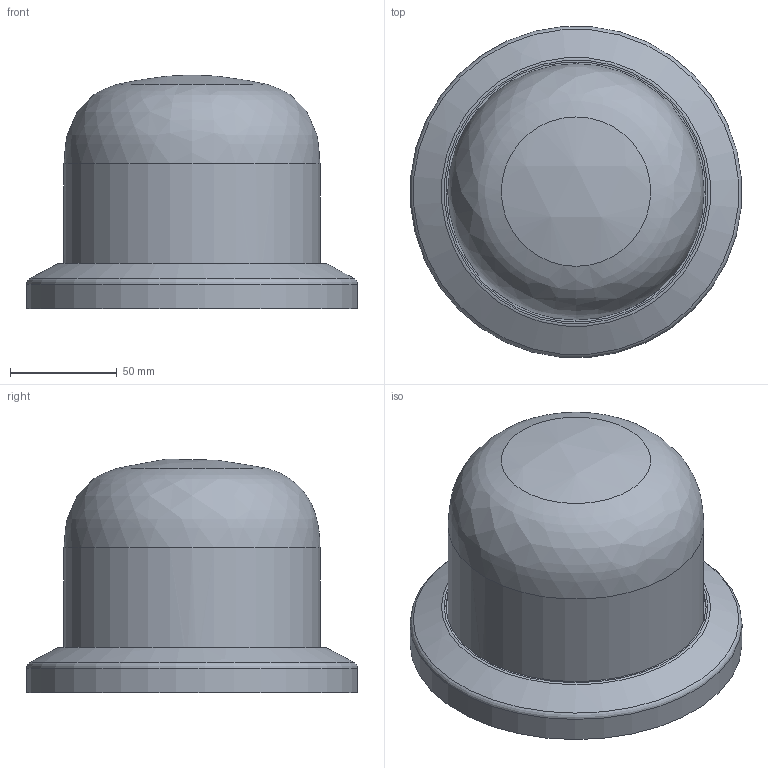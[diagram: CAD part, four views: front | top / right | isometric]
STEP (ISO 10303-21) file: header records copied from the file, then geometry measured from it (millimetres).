
FILE_DESCRIPTION(/* description */ ('GILL NAKED SMALL P/PL CE'),/* implementation_level */ '2;1');
FILE_NAME(/* name */ 'GILL P-PL NAKED.stp',/* time_stamp */ '2025-08-28T10:05:27+02:00',/* author */ ('davide.turci'),/* organization */ (''),/* preprocessor_version */ 'ST-DEVELOPER v20',/* originating_system */ 'Autodesk Inventor 2025',/* authorisation */ '');
FILE_SCHEMA (('CONFIG_CONTROL_DESIGN'));
Products named in the file (13): A505Z2AT0-0CEND; 505C006; STAFFA PARETE - 06; X0060-006; X0050-006; X0050-018; X0059-004; 505C003-A; 505C005; Z0028; VITE TSPIC M3X8 ZN UNI7688 DIN965; DADO M3 S2 M.00.06.19 UNI5588 DIN934; P001
Assembly tree (25 placements, depth 3):
  A505Z2AT0-0CEND
    505C006
      STAFFA PARETE - 06
      X0060-006  x3
      X0050-018  x2
      X0050-006
      X0059-004  x2
    505C003-A
    505C005
    Z0028  x4
    VITE TSPIC M3X8 ZN UNI7688 DIN965  x4
    DADO M3 S2 M.00.06.19 UNI5588 DIN934  x4
    P001
Bounding box: 155.11 x 155.11 x 109.58 mm (x, y, z)
Volume: 190720.7 mm3; surface area: 170576.4 mm2
Topology: 24 solids, 24 shells, 3422 faces, 9693 edges, 6393 vertices
Faces by surface type: plane 2882, cylinder 238, cone 158, bspline 81, torus 51, sphere 12
Full cylindrical faces by diameter (mm): 0.3 x2, 2.459 x6, 2.693 x4, 3 x10, 3.242 x3, 3.5 x2, 4 x4, 4.3 x2, 4.38 x2, 4.6 x3, 5.38 x2, 5.4 x2, 5.5 x4, 6 x3, 6.1 x2, 6.11 x3, 7.11 x3, 7.2 x3, 10 x4, 18 x1, 38 x1, 114 x1, 120 x1, 122 x1, 154 x1, 155.6 x1
Entity records: 125087 total; most frequent: CARTESIAN_POINT 41058, ORIENTED_EDGE 18138, DIRECTION 16357, EDGE_CURVE 9069, LINE 7403, VECTOR 7403, VERTEX_POINT 6000, AXIS2_PLACEMENT_3D 4477
